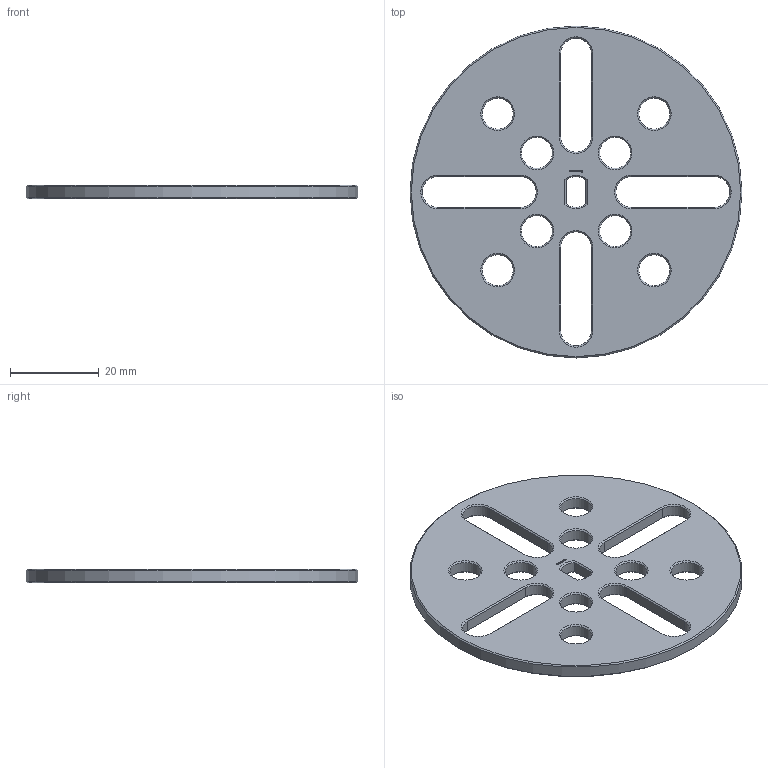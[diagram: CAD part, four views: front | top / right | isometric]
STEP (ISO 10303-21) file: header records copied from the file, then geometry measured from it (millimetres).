
FILE_DESCRIPTION(/* description */ (''),/* implementation_level */ '2;1');
FILE_NAME(/* name */ '/Users/paulokiefe/Desktop/STEMFIE/Fasteners/Washers/Fixed/Washer WSR FXD BU0.25x6.00 - SPN-WSR-0021 v1.step',/* time_stamp */ '2020-09-27T23:19:13+02:00',/* author */ (''),/* organization */ (''),/* preprocessor_version */ 'ST-DEVELOPER v18.1',/* originating_system */ 'Autodesk Translation Framework v9.3.0.1241',/* authorisation */ '');
FILE_SCHEMA (('AUTOMOTIVE_DESIGN { 1 0 10303 214 3 1 1 }'));
Length unit declared in the file: millimetre
Products named in the file (1): Washer WSR FXD BU0.25x6.00 - SPN-WSR-0021
Bounding box: 75 x 75 x 3.12 mm (x, y, z)
Volume: 10571.6 mm3; surface area: 8666.3 mm2
Topology: 1 solids, 1 shells, 333 faces, 899 edges, 580 vertices
Faces by surface type: plane 276, cone 38, cylinder 19
Full cylindrical faces by diameter (mm): 7 x8, 75 x1
Entity records: 10318 total; most frequent: CARTESIAN_POINT 1837, ORIENTED_EDGE 1798, DIRECTION 1635, EDGE_CURVE 899, LINE 815, VECTOR 815, VERTEX_POINT 580, AXIS2_PLACEMENT_3D 410
